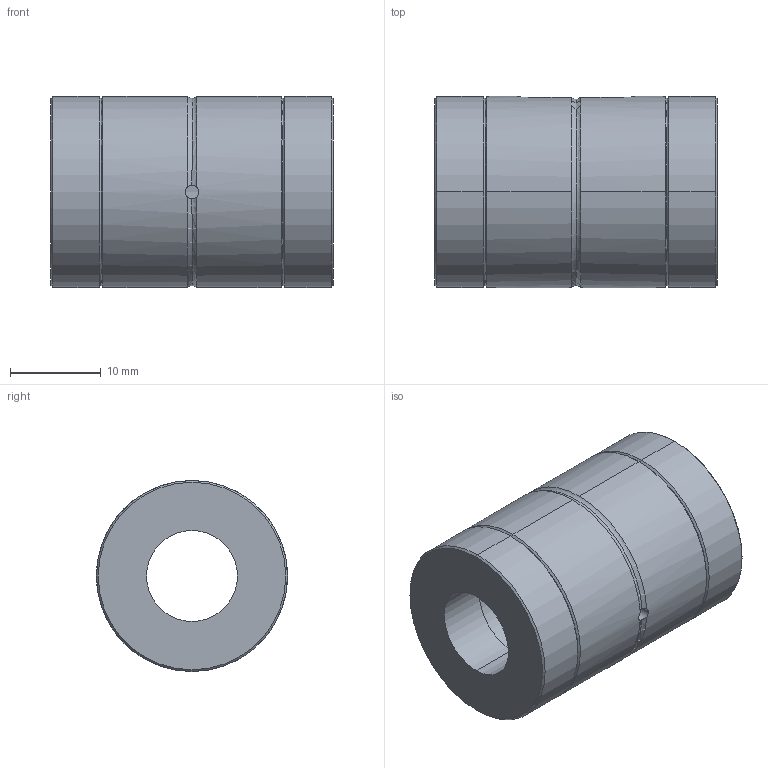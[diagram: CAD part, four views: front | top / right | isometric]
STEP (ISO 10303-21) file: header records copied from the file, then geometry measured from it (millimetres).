
FILE_DESCRIPTION (( 'STEP AP203' ), '1' );
FILE_NAME ('KLT010T3.STEP', '2023-08-11T07:24:07', ( 'Microsoft' ), ( 'Microsoft' ), 'SwSTEP 2.0', 'SolidWorks 2022', '' );
FILE_SCHEMA (( 'CONFIG_CONTROL_DESIGN' ));
Length unit declared in the file: millimetre
Products named in the file (4): KLT010T3; 零件6^KLT010T3; 零件4^KLT010T3; 零件7^KLT010T3
Assembly tree (3 placements, depth 2):
  KLT010T3
    零件4^KLT010T3
    零件6^KLT010T3
    零件7^KLT010T3
Bounding box: 31 x 21 x 21 mm (x, y, z)
Volume: 8221.8 mm3; surface area: 4648.4 mm2
Topology: 3 solids, 3 shells, 45 faces, 105 edges, 65 vertices
Faces by surface type: cylinder 18, cone 12, plane 9, torus 6
Entity records: 1822 total; most frequent: CARTESIAN_POINT 355, DIRECTION 242, ORIENTED_EDGE 210, EDGE_CURVE 105, AXIS2_PLACEMENT_3D 102, VERTEX_POINT 65, EDGE_LOOP 52, CIRCLE 51
